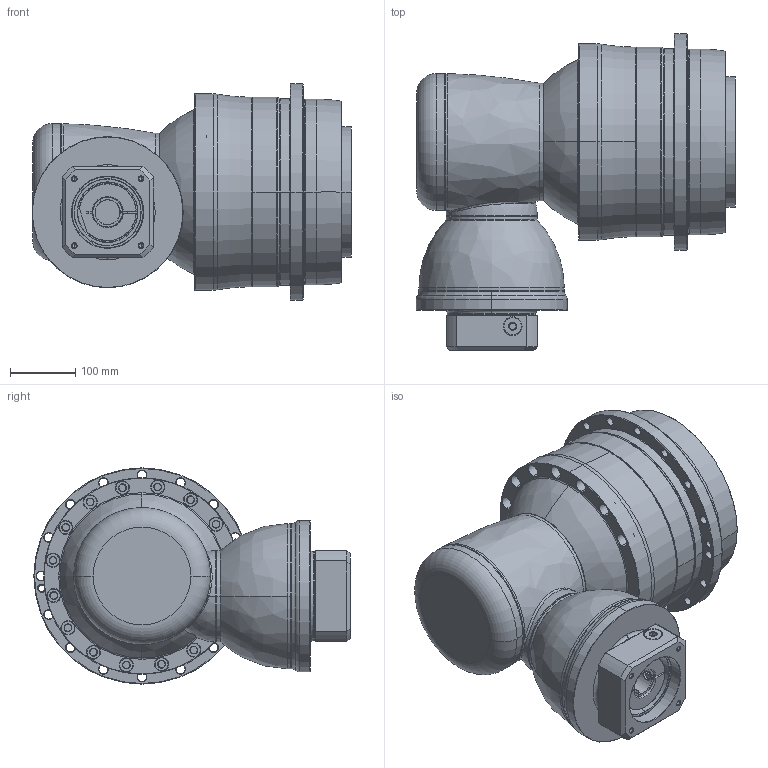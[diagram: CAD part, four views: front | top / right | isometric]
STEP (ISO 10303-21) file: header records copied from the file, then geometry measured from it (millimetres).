
FILE_DESCRIPTION((''),'2;1');
FILE_NAME('AHKA285_3ST_38-P0409900101_ASM','2016-12-06T',('d01943'),(''),'PRO/ENGINEER BY PARAMETRIC TECHNOLOGY CORPORATION, 2008410','PRO/ENGINEER BY PARAMETRIC TECHNOLOGY CORPORATION, 2008410','');
FILE_SCHEMA(('CONFIG_CONTROL_DESIGN'));
Length unit declared in the file: millimetre
Products named in the file (12): P1008600002; P1832800001; P0278800003; P0359800003; P1315600001; P1007600001; P1318600201; P0409900101; P0503900012; P0912602001; 21711422019; AHKA285_3ST_38-P0409900101_ASM
Assembly tree (11 placements, depth 2):
  AHKA285_3ST_38-P0409900101_ASM
    P1008600002
    P1832800001
    P0278800003
    P0359800003
    P1315600001
    P1007600001
    P1318600201
    P0409900101
    P0503900012
    P0912602001
    21711422019
Bounding box: 491 x 485.5 x 332 mm (x, y, z)
Volume: 21989847.6 mm3; surface area: 1626996.3 mm2
Topology: 12 solids, 12 shells, 1075 faces, 2415 edges, 1394 vertices
Faces by surface type: cone 380, cylinder 374, plane 146, torus 136, bspline 37, sphere 2
Entity records: 36463 total; most frequent: CARTESIAN_POINT 11875, DIRECTION 5668, ORIENTED_EDGE 4690, AXIS2_PLACEMENT_3D 2421, EDGE_CURVE 2345, VERTEX_POINT 1394, CIRCLE 1360, EDGE_LOOP 1271
